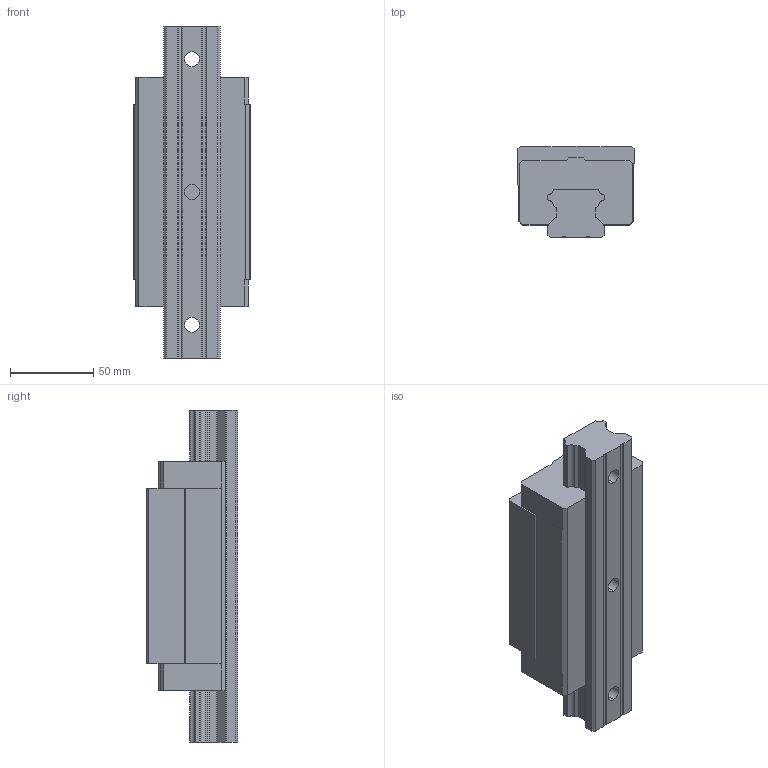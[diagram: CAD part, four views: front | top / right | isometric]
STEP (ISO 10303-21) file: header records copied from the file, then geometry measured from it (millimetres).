
FILE_DESCRIPTION (( 'STEP AP214' ), '1' );
FILE_NAME ('2.1027 Lineaarikelkka HGH35HA.STEP', '2024-04-23T12:41:49', ( '' ), ( '' ), 'SwSTEP 2.0', 'SolidWorks 2024', '' );
FILE_SCHEMA (( 'AUTOMOTIVE_DESIGN' ));
Length unit declared in the file: millimetre
Products named in the file (1): 2.1027 Lineaarikelkka HGH35HA
Bounding box: 70 x 55 x 200 mm (x, y, z)
Volume: 508740.3 mm3; surface area: 74924.7 mm2
Topology: 2 solids, 2 shells, 135 faces, 372 edges, 248 vertices
Faces by surface type: plane 97, cylinder 38
Entity records: 5811 total; most frequent: CARTESIAN_POINT 756, ORIENTED_EDGE 744, DIRECTION 720, EDGE_CURVE 372, VECTOR 296, LINE 296, VERTEX_POINT 248, AXIS2_PLACEMENT_3D 212
